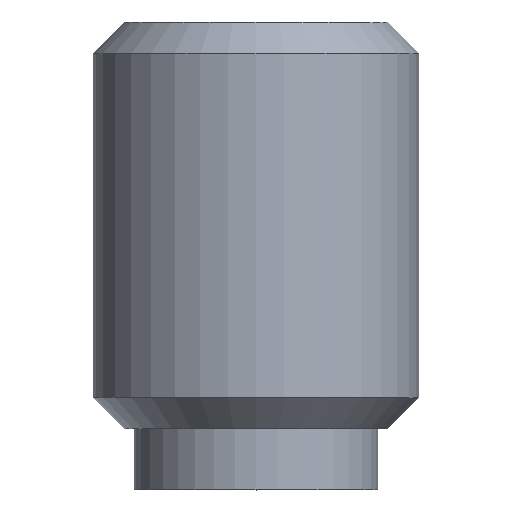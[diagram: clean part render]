
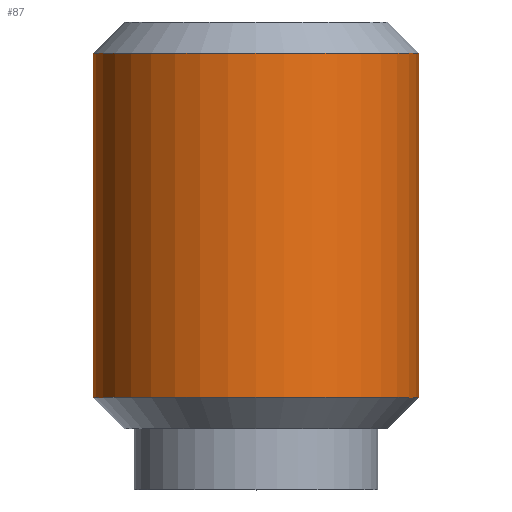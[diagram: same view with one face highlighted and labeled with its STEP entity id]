
A CAD part, top view. The second image highlights one B-rep face of the part: STEP entity #87.
In plain terms, the highlighted cylindrical face has radius 4 mm (diameter 8 mm), a full revolution.
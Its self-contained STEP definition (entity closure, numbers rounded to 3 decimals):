
#87 = ADVANCED_FACE( '', ( #118, #119 ), #120, .T. );
#118 = FACE_OUTER_BOUND( '', #152, .T. );
#119 = FACE_OUTER_BOUND( '', #153, .T. );
#120 = CYLINDRICAL_SURFACE( '', #154, 4. );
#152 = EDGE_LOOP( '', ( #238 ) );
#153 = EDGE_LOOP( '', ( #239 ) );
#154 = AXIS2_PLACEMENT_3D( '', #240, #241, #242 );
#238 = ORIENTED_EDGE( '', *, *, #270, .F. );
#239 = ORIENTED_EDGE( '', *, *, #271, .T. );
#240 = CARTESIAN_POINT( '', ( 0., 0., 0. ) );
#241 = DIRECTION( '', ( 0., 1., 0. ) );
#242 = DIRECTION( '', ( 0., 0., -1. ) );
#270 = EDGE_CURVE( '', #310, #310, #311, .T. );
#271 = EDGE_CURVE( '', #312, #312, #313, .T. );
#310 = VERTEX_POINT( '', #370 );
#311 = CIRCLE( '', #371, 4. );
#312 = VERTEX_POINT( '', #372 );
#313 = CIRCLE( '', #373, 4. );
#370 = CARTESIAN_POINT( '', ( 0., 2.267, -4. ) );
#371 = AXIS2_PLACEMENT_3D( '', #404, #405, #406 );
#372 = CARTESIAN_POINT( '', ( 0., 10.733, -4. ) );
#373 = AXIS2_PLACEMENT_3D( '', #407, #408, #409 );
#404 = CARTESIAN_POINT( '', ( 0., 2.267, 0. ) );
#405 = DIRECTION( '', ( 0., -1., 0. ) );
#406 = DIRECTION( '', ( 0., 0., -1. ) );
#407 = CARTESIAN_POINT( '', ( 0., 10.733, 0. ) );
#408 = DIRECTION( '', ( 0., -1., 0. ) );
#409 = DIRECTION( '', ( 0., 0., -1. ) );
